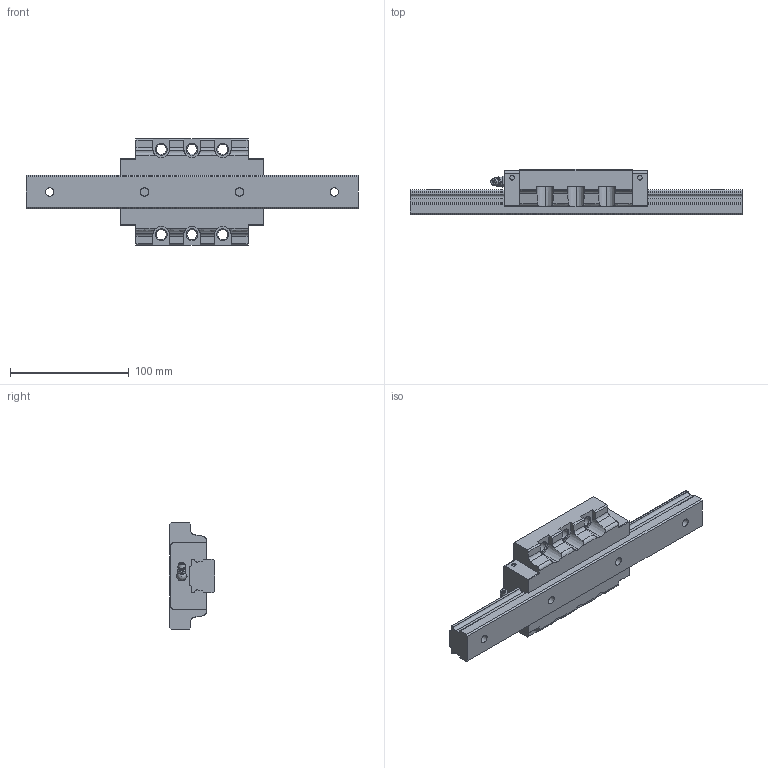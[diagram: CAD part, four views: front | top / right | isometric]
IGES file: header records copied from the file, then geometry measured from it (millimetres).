
Start section: Data from Parasolid IGES Translator 26.0.171, Copyright(c) 2006 Siemens PLM Software. All Rights Reserved.
Global section: file name: SVR30LC1SS-280L_G20_0_B-M6F_79-75_0_0_0_1.igs; native system: By Siemens PLM Incorporated; preprocessor: XPlus GENERIC/IGES 26.0.171; author: Noname; organization: Noname; date: 20240517.072330; units: millimetre
Bounding box: 280 x 38 x 90 mm (x, y, z)
Surface area: 68911.4 mm2 (no closed solid volume)
Topology: 0 solids, 0 shells, 248 faces, 1390 edges, 1353 vertices
Faces by surface type: extrusion 132, revolution 116
